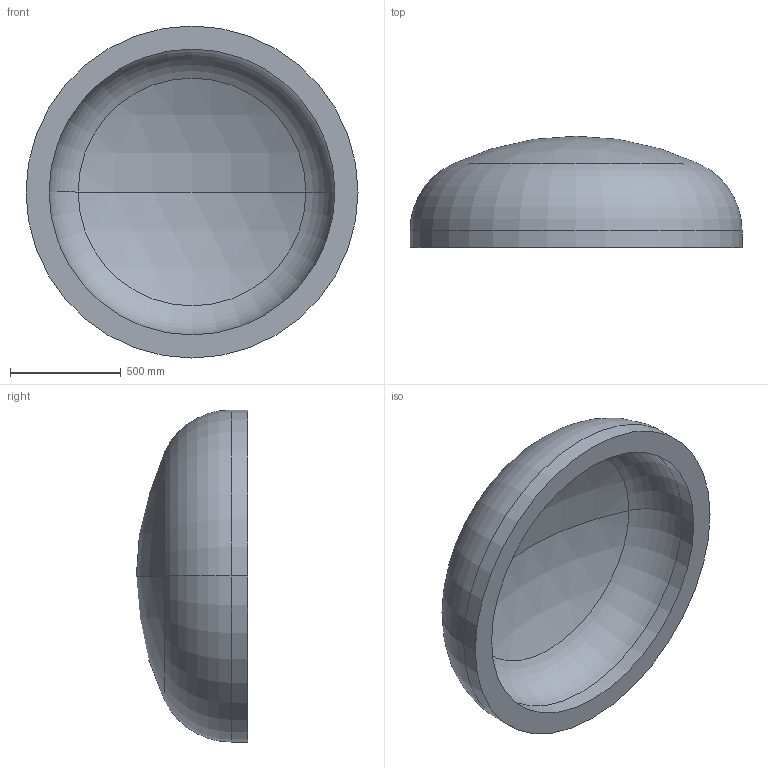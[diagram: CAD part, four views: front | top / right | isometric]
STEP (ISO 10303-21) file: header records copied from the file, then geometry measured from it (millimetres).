
FILE_DESCRIPTION (( 'STEP AP203' ), '1' );
FILE_NAME ('DIN 28013 Korbbogenform_-_Boden DIN 28013 - 1500 x 75 - I - s=104.step', '2016-07-01T10:58:45', ( '' ), ( '' ), 'SwSTEP 2.0', 'SolidWorks 2013', '' );
FILE_SCHEMA (( 'CONFIG_CONTROL_DESIGN' ));
Length unit declared in the file: millimetre
Products named in the file (1): DIN 28013 Korbbogenform_-_Boden DIN 28013 - 1500 x 75 - I - s=104
Bounding box: 1500 x 502.73 x 1500 mm (x, y, z)
Volume: 267155549.8 mm3; surface area: 5616367.5 mm2
Topology: 1 solids, 1 shells, 13 faces, 24 edges, 14 vertices
Faces by surface type: torus 4, cylinder 4, sphere 4, plane 1
Entity records: 407 total; most frequent: DIRECTION 72, CARTESIAN_POINT 52, ORIENTED_EDGE 48, AXIS2_PLACEMENT_3D 34, EDGE_CURVE 24, CIRCLE 20, VERTEX_POINT 14, EDGE_LOOP 14
